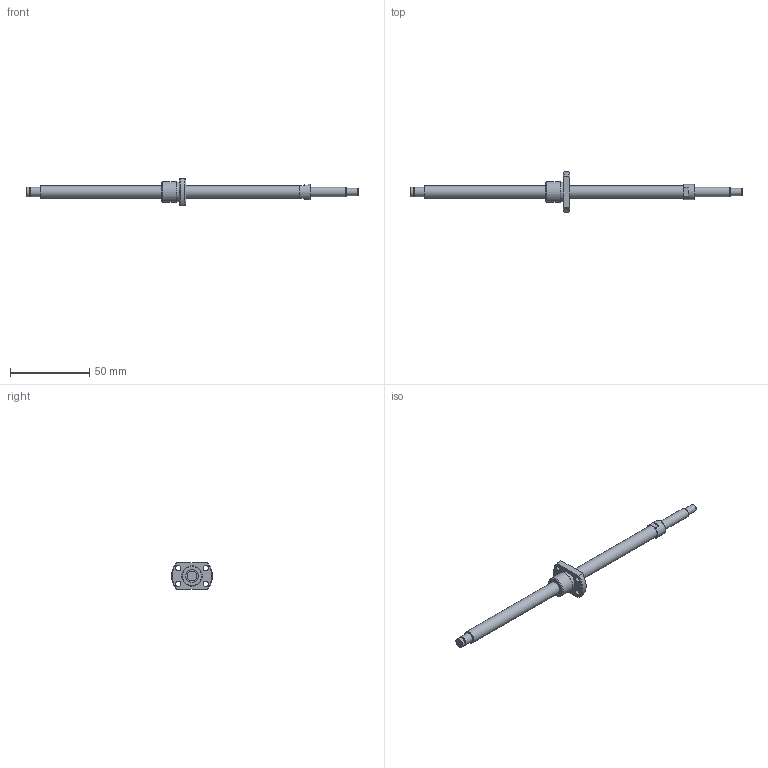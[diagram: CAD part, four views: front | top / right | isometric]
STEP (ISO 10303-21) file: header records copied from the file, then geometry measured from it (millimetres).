
FILE_DESCRIPTION(/* description */ ('STEP AP214'),/* implementation_level */ '2;1');
FILE_NAME(/* name */ 'PSRT0801K-160R210C5B0X(B77)',/* time_stamp */ '2026-08-06T16:12:33+02:00',/* author */ ('License CC BY-ND 4.0'),/* organization */ ('CADENAS'),/* preprocessor_version */ 'ST-DEVELOPER v20',/* originating_system */ 'PARTsolutions',/* authorisation */ ' ');
FILE_SCHEMA (('AUTOMOTIVE_DESIGN {1 0 10303 214 3 1 1}'));
Length unit declared in the file: millimetre
Products named in the file (3): PSRT0801K-160R210C5B0X(B77); PSRT0801KB210_shaft; PSR0801K_nut
Assembly tree (2 placements, depth 2):
  PSRT0801K-160R210C5B0X(B77)
    PSRT0801KB210_shaft
    PSR0801K_nut
Bounding box: 210 x 25.92 x 17 mm (x, y, z)
Volume: 11892.8 mm3; surface area: 7088.4 mm2
Topology: 2 solids, 2 shells, 44 faces, 91 edges, 58 vertices
Faces by surface type: plane 19, cylinder 16, cone 8, torus 1
Full cylindrical faces by diameter (mm): 3.4 x4, 4.5 x1, 5.7 x1, 6 x3, 8 x2, 9.5 x1, 12.6 x1, 13 x1
Entity records: 1175 total; most frequent: DIRECTION 202, CARTESIAN_POINT 199, ORIENTED_EDGE 142, AXIS2_PLACEMENT_3D 92, EDGE_LOOP 80, FACE_BOUND 80, EDGE_CURVE 71, VERTEX_POINT 57
